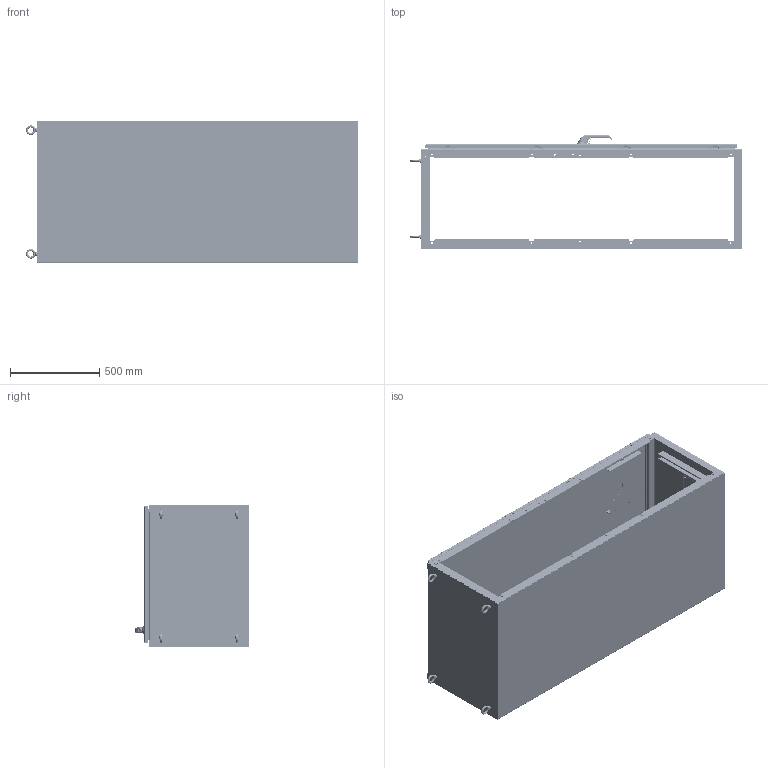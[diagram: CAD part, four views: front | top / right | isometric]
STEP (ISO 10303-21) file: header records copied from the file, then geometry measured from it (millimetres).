
FILE_DESCRIPTION((''),'2;1');
FILE_NAME('MODEL-255_ASM','2021-01-13T15:37:42',('mikek'),('SAGINAW CONTROL & ENGINEERING'),'CREO PARAMETRIC BY PTC INC, 2017260','CREO PARAMETRIC BY PTC INC, 2017260','');
FILE_SCHEMA(('AUTOMOTIVE_DESIGN { 1 0 10303 214 1 1 1 1 }'));
Length unit declared in the file: inch
Products named in the file (58): MODEL-255-R-SD; MODEL-255-L-SD; MODEL-255-TP; MODEL-255-BTM; MODEL-255-DR; 100837; 111267; 100882; 100956_HANDLE; 100956_HANDLE_INSERT; 100956_SHAFT_CAM; 100956_ADAPTER_CAM; 100956_NUT_CAM; 100956_BASE; 100956_O-RING; 100956_NUT_MOUNTING_LARGE; 100956_NUT_MOUNTING_SMALL; 100956_SCREW_SMALL; 100956_PADLOCK_CATCH; 100956_STOP_CAM; 100956_ASM; 102237; 100030; 102237_ASM; MODEL-255-ROD-UPR; 128146; 128145; 128144; 102482; MODEL-255-ROD-UPR_ASM; 128143; 112504; MODEL-255-ROD-LWR; MODEL-255-ROD-LWR_ASM; MODEL-255-GSKT; 128257; 126397; 128257_ASM; 126393; 102483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
Assembly tree (113 placements, depth 4):
  MODEL-255_ASM
    MODEL-255-R-SD
    MODEL-255-L-SD
    MODEL-255-TP
    MODEL-255-BTM
    MODEL-255-DOOR-ASSY_ASM
      MODEL-255-DR
      100837  x5
      111267
      100882  x12
      100956_ASM
        100956_HANDLE
        100956_HANDLE_INSERT
        100956_SHAFT_CAM
        100956_ADAPTER_CAM
        100956_NUT_CAM
        100956_BASE
        100956_O-RING
        100956_NUT_MOUNTING_LARGE
        100956_NUT_MOUNTING_SMALL
        100956_SCREW_SMALL
        100956_PADLOCK_CATCH
        100956_STOP_CAM
      102237_ASM
        102237
        100030  x2
      MODEL-255-ROD-UPR_ASM
        MODEL-255-ROD-UPR
        128146
        128145
        128144
        102482  x2
      128143  x2
      112504  x2
      MODEL-255-ROD-LWR_ASM
        MODEL-255-ROD-LWR
        128146
        128145
        128144
        102482  x2
      MODEL-255-GSKT
      128257_ASM  x4
        128257
        126397
      126393  x4
      102483  x4
      101369_ASM  x4
        101369
        101369-STUD
      101221  x4
    100064  x5
    MODEL-255-EBS  x2
    MODEL-255-B22  x4
    102278  x2
    103286_ASM  x4
      100813
      108595
      114504
    102297
    100882  x4
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Bounding box: 1861.2 x 636.17 x 800 mm (x, y, z)
Volume: 14619826.4 mm3; surface area: 10711888.6 mm2
Topology: 118 solids, 118 shells, 11377 faces, 30213 edges, 19066 vertices
Faces by surface type: plane 4034, cylinder 3004, bspline 2961, cone 616, torus 570, sphere 192
Entity records: 235345 total; most frequent: CARTESIAN_POINT 79321, ORIENTED_EDGE 23518, DIRECTION 21622, PRESENTATION_STYLE_ASSIGNMENT 11904, STYLED_ITEM 11799, EDGE_CURVE 11759, CURVE_STYLE 11747, AXIS2_PLACEMENT_3D 8030
